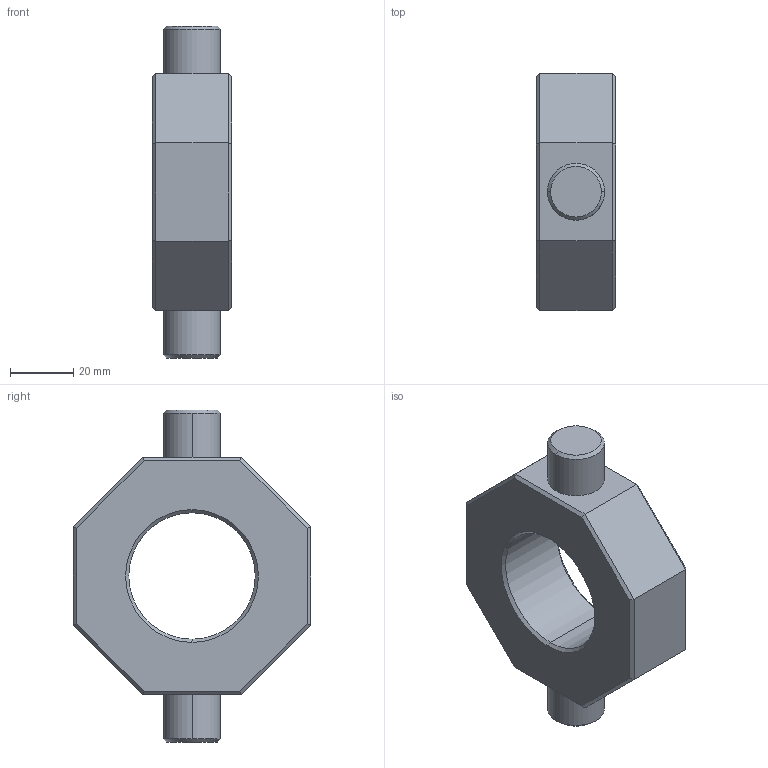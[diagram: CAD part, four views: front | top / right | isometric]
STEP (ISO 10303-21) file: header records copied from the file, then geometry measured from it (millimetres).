
FILE_DESCRIPTION (( 'STEP AP214' ), '1' );
FILE_NAME ('LB-KA-40.STEP', '2025-04-08T06:54:47', ( '' ), ( '' ), 'SwSTEP 2.0', 'SolidWorks 2023', '' );
FILE_SCHEMA (( 'AUTOMOTIVE_DESIGN' ));
Length unit declared in the file: millimetre
Products named in the file (1): LB-KA-40
Bounding box: 25 x 75 x 105 mm (x, y, z)
Volume: 90213.1 mm3; surface area: 18945.6 mm2
Topology: 1 solids, 1 shells, 78 faces, 174 edges, 94 vertices
Faces by surface type: cone 32, plane 28, cylinder 18
Entity records: 2053 total; most frequent: DIRECTION 376, CARTESIAN_POINT 335, ORIENTED_EDGE 324, EDGE_CURVE 162, AXIS2_PLACEMENT_3D 135, LINE 106, VECTOR 106, VERTEX_POINT 94
